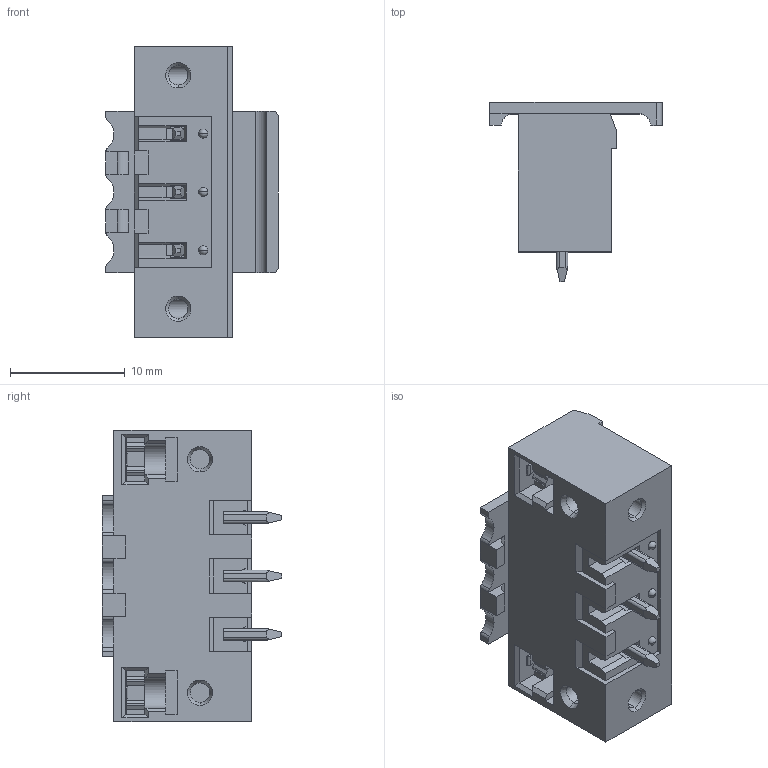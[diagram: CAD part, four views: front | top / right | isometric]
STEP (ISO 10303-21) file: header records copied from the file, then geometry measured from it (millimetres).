
FILE_DESCRIPTION((''),'2;1');
FILE_NAME('3PIN','2022-07-20T',('renkang.li'),(''),'CREO PARAMETRIC BY PTC INC, 2016260','CREO PARAMETRIC BY PTC INC, 2016260','');
FILE_SCHEMA(('CONFIG_CONTROL_DESIGN'));
Length unit declared in the file: millimetre
Products named in the file (1): 3PIN
Bounding box: 15 x 15.6 x 25.4 mm (x, y, z)
Volume: 1687.5 mm3; surface area: 3078.8 mm2
Topology: 1 solids, 1 shells, 516 faces, 1621 edges, 1063 vertices
Faces by surface type: plane 358, cylinder 113, cone 25, bspline 8, torus 6, sphere 6
Entity records: 21081 total; most frequent: CARTESIAN_POINT 6703, ORIENTED_EDGE 3230, DIRECTION 2748, EDGE_CURVE 1615, VECTOR 1126, LINE 1126, VERTEX_POINT 1063, AXIS2_PLACEMENT_3D 811
